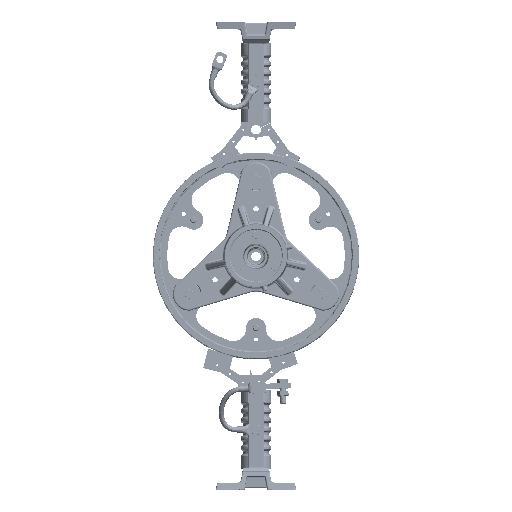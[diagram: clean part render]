
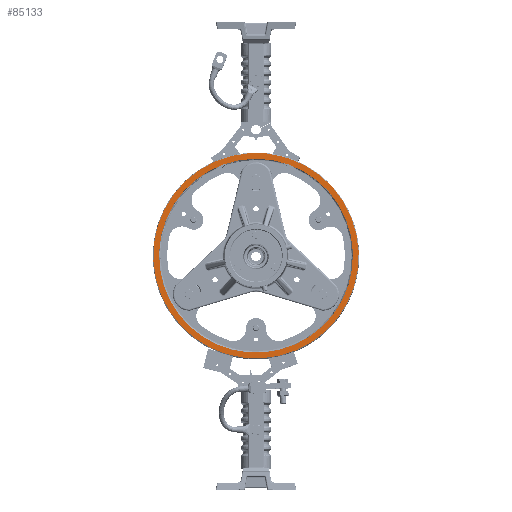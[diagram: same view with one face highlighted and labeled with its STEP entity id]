
A CAD part, top view. The second image highlights one B-rep face of the part: STEP entity #85133.
In plain terms, the highlighted planar face has unit normal (0, 0, 1).
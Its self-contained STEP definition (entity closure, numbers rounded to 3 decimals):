
#15540=PLANE('',#92028);
#17307=FACE_BOUND('',#26257,.T.);
#20385=FACE_OUTER_BOUND('',#26256,.T.);
#26256=EDGE_LOOP('',(#60958,#60959));
#26257=EDGE_LOOP('',(#60960));
#33536=CIRCLE('',#92014,7.5);
#33544=CIRCLE('',#92029,199.2);
#33545=CIRCLE('',#92030,188.);
#38404=VERTEX_POINT('',#131163);
#38406=VERTEX_POINT('',#131169);
#38420=VERTEX_POINT('',#131218);
#47025=EDGE_CURVE('',#38406,#38404,#33536,.T.);
#47045=EDGE_CURVE('',#38406,#38404,#33544,.T.);
#47046=EDGE_CURVE('',#38420,#38420,#33545,.T.);
#60958=ORIENTED_EDGE('',*,*,#47025,.T.);
#60959=ORIENTED_EDGE('',*,*,#47045,.F.);
#60960=ORIENTED_EDGE('',*,*,#47046,.F.);
#85133=ADVANCED_FACE('',(#20385,#17307),#15540,.T.);
#92014=AXIS2_PLACEMENT_3D('',#131170,#105445,#105446);
#92028=AXIS2_PLACEMENT_3D('',#131216,#105483,#105484);
#92029=AXIS2_PLACEMENT_3D('',#131217,#105485,#105486);
#92030=AXIS2_PLACEMENT_3D('',#131219,#105487,#105488);
#105445=DIRECTION('center_axis',(0.,0.,
-1.));
#105446=DIRECTION('ref_axis',(-0.811,-0.585,0.));
#105483=DIRECTION('center_axis',(0.,0.,
1.));
#105484=DIRECTION('ref_axis',(0.,1.,0.));
#105485=DIRECTION('center_axis',(0.,0.,
-1.));
#105486=DIRECTION('ref_axis',(0.,-1.,0.));
#105487=DIRECTION('center_axis',(0.,0.,
1.));
#105488=DIRECTION('ref_axis',(0.,-1.,0.));
#131163=CARTESIAN_POINT('',(54.217,620.18,739.271));
#131169=CARTESIAN_POINT('',(62.327,617.698,739.271));
#131170=CARTESIAN_POINT('Origin',(60.082,624.854,739.271));
#131216=CARTESIAN_POINT('Origin',(0.,428.5,739.271));
#131217=CARTESIAN_POINT('Origin',(0.,428.5,739.271));
#131218=CARTESIAN_POINT('',(0.,616.5,739.271));
#131219=CARTESIAN_POINT('Origin',(0.,428.5,739.271));
